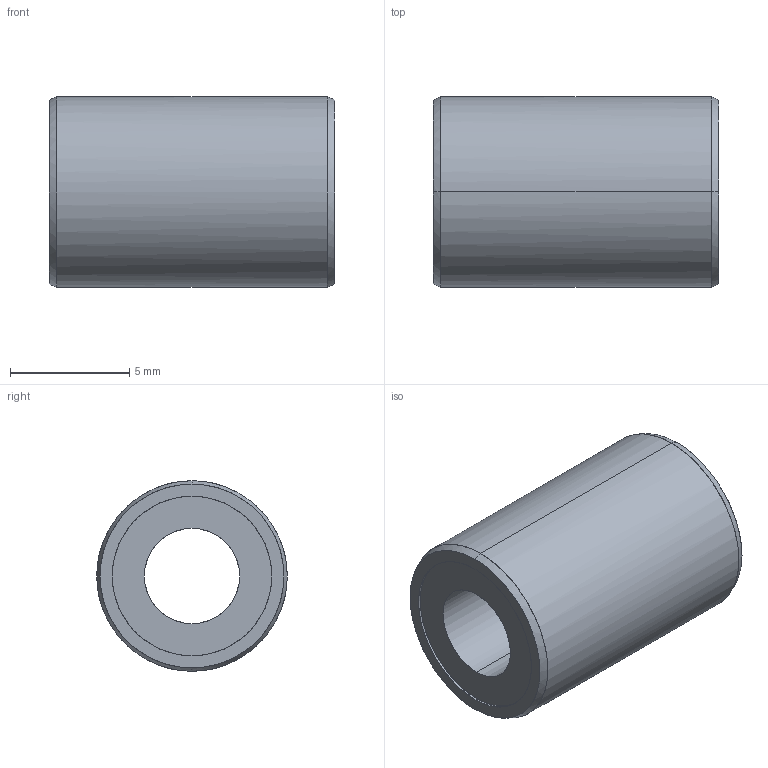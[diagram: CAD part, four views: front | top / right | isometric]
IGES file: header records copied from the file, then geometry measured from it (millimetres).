
Global section: file name: No Iges File Name specified; native system: AutoDesk Inventor R10; preprocessor: AutoDesk Inventor Iges Exporter R10; author: No Author specified; organization: No Organization specified; date: 20101208.094528; units: millimetre
Bounding box: 12 x 8 x 8 mm (x, y, z)
Surface area: 523.8 mm2 (no closed solid volume)
Topology: 0 solids, 0 shells, 16 faces, 104 edges, 104 vertices
Faces by surface type: bspline 16
